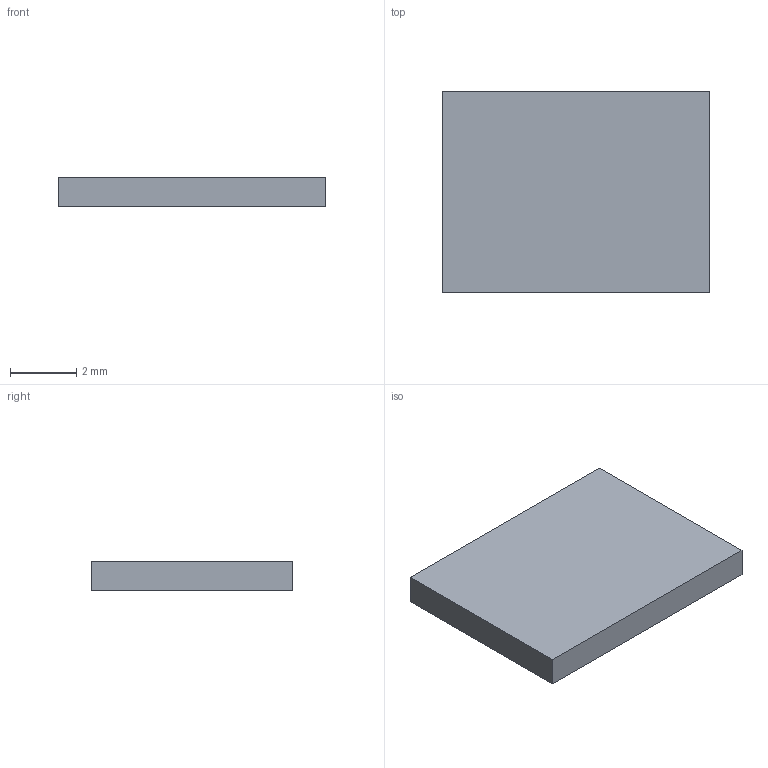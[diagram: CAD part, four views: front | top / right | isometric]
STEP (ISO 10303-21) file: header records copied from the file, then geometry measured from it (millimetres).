
FILE_DESCRIPTION(('Open CASCADE Model'),'2;1');
FILE_NAME('Open CASCADE Shape Model','2026-10-29T11:33:07',('Author'),( 'Open CASCADE'),'Open CASCADE STEP processor 7.9','Open CASCADE 7.9' ,'Unknown');
FILE_SCHEMA(('AUTOMOTIVE_DESIGN { 1 0 10303 214 1 1 1 1 }'));
Length unit declared in the file: millimetre
Products named in the file (1): Open CASCADE STEP translator 7.9 2
Bounding box: 8.1 x 6.1 x 0.9 mm (x, y, z)
Volume: 44.5 mm3; surface area: 124.4 mm2
Topology: 1 solids, 1 shells, 6 faces, 12 edges, 8 vertices
Faces by surface type: plane 6
Entity records: 322 total; most frequent: CARTESIAN_POINT 51, DIRECTION 50, LINE 36, VECTOR 36, ORIENTED_EDGE 24, PCURVE 24, DEFINITIONAL_REPRESENTATION 24, EDGE_CURVE 12
